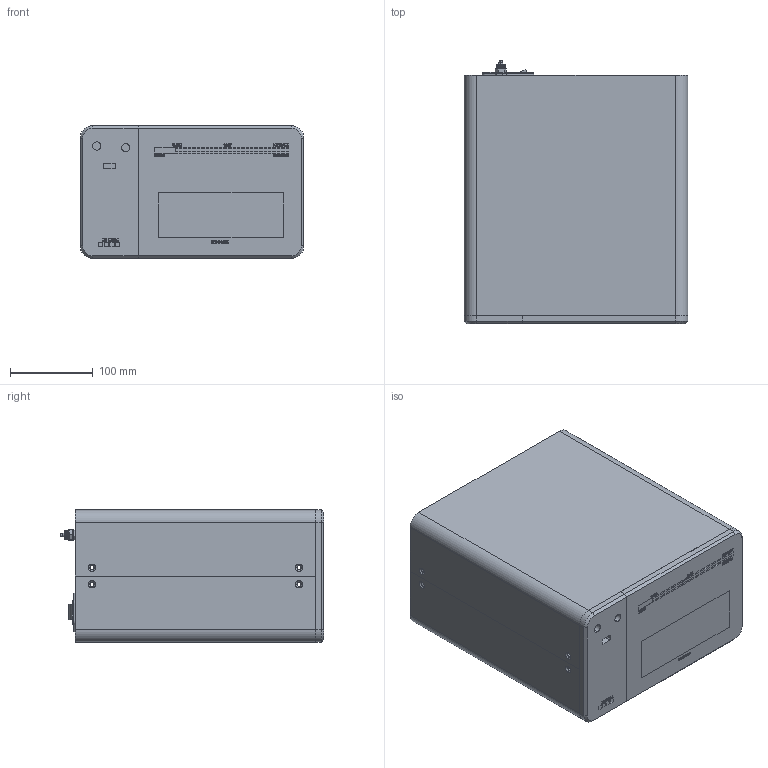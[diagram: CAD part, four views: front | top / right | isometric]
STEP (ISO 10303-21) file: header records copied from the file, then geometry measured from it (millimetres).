
FILE_DESCRIPTION (( 'STEP AP214' ), '1' );
FILE_NAME ('T8000 Series.STEP', '2019-06-13T19:46:39', ( '' ), ( '' ), 'SwSTEP 2.0', 'SolidWorks 2018', '' );
FILE_SCHEMA (( 'AUTOMOTIVE_DESIGN' ));
Length unit declared in the file: millimetre
Products named in the file (8): Frontale sx T8000; T8000 Series; Presa posteriore; Display T8000; Scocca T8000; Porta di test M8000; Fondo T8000; Frontale dx T8000
Assembly tree (8 placements, depth 2):
  T8000 Series
    Scocca T8000  x2
    Frontale sx T8000
    Frontale dx T8000
    Display T8000
    Fondo T8000
    Presa posteriore
    Porta di test M8000
Bounding box: 270 x 318.5 x 160 mm (x, y, z)
Volume: 1100533.6 mm3; surface area: 762899.3 mm2
Topology: 8 solids, 8 shells, 1902 faces, 5156 edges, 3386 vertices
Faces by surface type: plane 1253, cylinder 299, bspline 280, cone 42, sphere 22, torus 6
Entity records: 77786 total; most frequent: CARTESIAN_POINT 27583, ORIENTED_EDGE 10112, DIRECTION 8330, EDGE_CURVE 5056, LINE 3864, VECTOR 3864, VERTEX_POINT 3334, AXIS2_PLACEMENT_3D 2233
